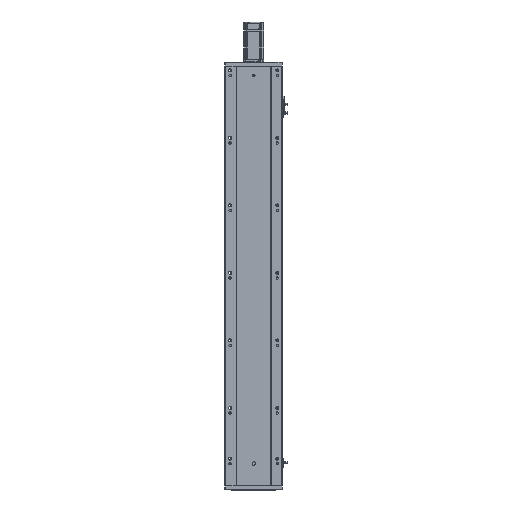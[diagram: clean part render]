
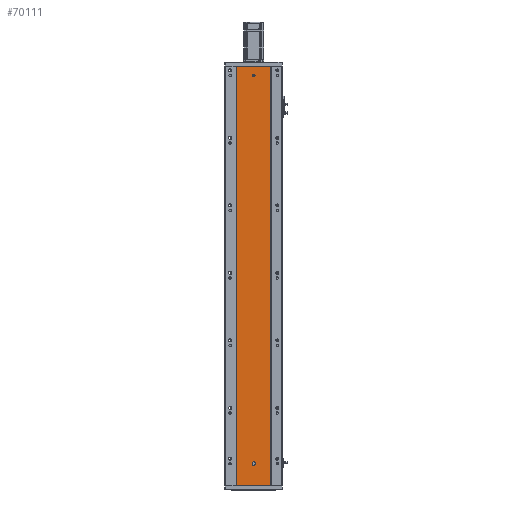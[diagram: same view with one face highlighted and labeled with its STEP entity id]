
A CAD part, front view. The second image highlights one B-rep face of the part: STEP entity #70111.
In plain terms, the highlighted planar face has unit normal (0, -1, 0).
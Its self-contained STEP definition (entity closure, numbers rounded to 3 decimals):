
#28 = CARTESIAN_POINT ( 'NONE',  ( 185.97, 79.476, 829.333 ) ) ;
#274 = CARTESIAN_POINT ( 'NONE',  ( 185.97, 79.476, 414.667 ) ) ;
#404 = CARTESIAN_POINT ( 'NONE',  ( 185.97, 79.476, 0. ) ) ;
#1813 = CARTESIAN_POINT ( 'NONE',  ( 86.97, 79.476, 829.333 ) ) ;
#1826 = AXIS2_PLACEMENT_3D ( 'NONE', #19675, #8997, #19973 ) ;
#3471 = ORIENTED_EDGE ( 'NONE', *, *, #56860, .F. ) ;
#6833 = CIRCLE ( 'NONE', #35227, 4. ) ;
#7901 = CARTESIAN_POINT ( 'NONE',  ( 86.97, 79.476, 0. ) ) ;
#8997 = DIRECTION ( 'NONE',  ( 0., -1., 0. ) ) ;
#9064 = CIRCLE ( 'NONE', #43914, 4. ) ;
#11062 = VECTOR ( 'NONE', #54452, 1000. ) ;
#11970 = ORIENTED_EDGE ( 'NONE', *, *, #67588, .F. ) ;
#13334 = EDGE_CURVE ( 'NONE', #61531, #62593, #55433, .T. ) ;
#14106 = AXIS2_PLACEMENT_3D ( 'NONE', #30485, #68585, #35969 ) ;
#14352 = AXIS2_PLACEMENT_3D ( 'NONE', #29732, #39965, #61698 ) ;
#14894 = ORIENTED_EDGE ( 'NONE', *, *, #32774, .T. ) ;
#15598 = CARTESIAN_POINT ( 'NONE',  ( 140.47, 79.476, 67.5 ) ) ;
#17009 = CARTESIAN_POINT ( 'NONE',  ( 140.47, 79.476, 67.5 ) ) ;
#17067 = DIRECTION ( 'NONE',  ( 0., 0., -1. ) ) ;
#18303 = ORIENTED_EDGE ( 'NONE', *, *, #34341, .F. ) ;
#18334 = VERTEX_POINT ( 'NONE', #17009 ) ;
#19627 = EDGE_LOOP ( 'NONE', ( #33925, #18303, #52201, #28690, #43694 ) ) ;
#19675 = CARTESIAN_POINT ( 'NONE',  ( 136.47, 79.476, 64.5 ) ) ;
#19973 = DIRECTION ( 'NONE',  ( 0., 0., -1. ) ) ;
#20613 = ORIENTED_EDGE ( 'NONE', *, *, #70004, .F. ) ;
#20702 = B_SPLINE_CURVE_WITH_KNOTS ( 'NONE', 3,
 ( #34219, #1813, #67117, #7901 ),
 .UNSPECIFIED., .F., .F.,
 ( 4, 4 ),
 ( 0., 1. ),
 .UNSPECIFIED. ) ;
#20902 = CARTESIAN_POINT ( 'NONE',  ( 185.97, 79.476, 1244. ) ) ;
#22647 = EDGE_CURVE ( 'NONE', #64357, #25067, #47927, .T. ) ;
#23808 = VERTEX_POINT ( 'NONE', #44277 ) ;
#24011 = VERTEX_POINT ( 'NONE', #67725 ) ;
#25067 = VERTEX_POINT ( 'NONE', #54199 ) ;
#26266 = DIRECTION ( 'NONE',  ( 1., 0., 0. ) ) ;
#28047 = CIRCLE ( 'NONE', #35095, 4. ) ;
#28690 = ORIENTED_EDGE ( 'NONE', *, *, #67758, .F. ) ;
#29058 = VECTOR ( 'NONE', #42339, 1000. ) ;
#29588 = DIRECTION ( 'NONE',  ( 0., -1., 0. ) ) ;
#29732 = CARTESIAN_POINT ( 'NONE',  ( 0., 79.476, 1244. ) ) ;
#30037 = CARTESIAN_POINT ( 'NONE',  ( 136.47, 79.476, 1212. ) ) ;
#30485 = CARTESIAN_POINT ( 'NONE',  ( 136.47, 79.476, 64.5 ) ) ;
#32126 = ORIENTED_EDGE ( 'NONE', *, *, #13334, .F. ) ;
#32691 = CARTESIAN_POINT ( 'NONE',  ( 185.97, 79.476, 1244. ) ) ;
#32774 = EDGE_CURVE ( 'NONE', #23808, #62593, #54465, .T. ) ;
#33925 = ORIENTED_EDGE ( 'NONE', *, *, #34539, .F. ) ;
#34219 = CARTESIAN_POINT ( 'NONE',  ( 86.97, 79.476, 1244. ) ) ;
#34304 = CARTESIAN_POINT ( 'NONE',  ( 86.97, 79.476, 1244. ) ) ;
#34341 = EDGE_CURVE ( 'NONE', #41525, #52807, #69570, .T. ) ;
#34539 = EDGE_CURVE ( 'NONE', #52807, #64357, #53465, .T. ) ;
#34976 = DIRECTION ( 'NONE',  ( 0., 0., -1. ) ) ;
#35095 = AXIS2_PLACEMENT_3D ( 'NONE', #66810, #29588, #67484 ) ;
#35227 = AXIS2_PLACEMENT_3D ( 'NONE', #67853, #45196, #34976 ) ;
#35969 = DIRECTION ( 'NONE',  ( 0., 0., -1. ) ) ;
#38150 = CARTESIAN_POINT ( 'NONE',  ( 185.97, 79.476, 0. ) ) ;
#38280 = EDGE_LOOP ( 'NONE', ( #20613, #3471 ) ) ;
#39965 = DIRECTION ( 'NONE',  ( 0., 1., 0. ) ) ;
#39970 = VECTOR ( 'NONE', #26266, 1000. ) ;
#41525 = VERTEX_POINT ( 'NONE', #55430 ) ;
#41914 = VERTEX_POINT ( 'NONE', #34304 ) ;
#42339 = DIRECTION ( 'NONE',  ( 1., 0., 0. ) ) ;
#43349 = VECTOR ( 'NONE', #61523, 1000. ) ;
#43684 = EDGE_LOOP ( 'NONE', ( #14894, #32126, #11970, #49018 ) ) ;
#43694 = ORIENTED_EDGE ( 'NONE', *, *, #22647, .F. ) ;
#43914 = AXIS2_PLACEMENT_3D ( 'NONE', #49785, #66348, #17067 ) ;
#44277 = CARTESIAN_POINT ( 'NONE',  ( 86.97, 79.476, 0. ) ) ;
#45196 = DIRECTION ( 'NONE',  ( 0., -1., 0. ) ) ;
#45366 = EDGE_CURVE ( 'NONE', #18334, #41525, #28047, .T. ) ;
#47559 = LINE ( 'NONE', #58471, #39970 ) ;
#47927 = CIRCLE ( 'NONE', #1826, 4. ) ;
#49018 = ORIENTED_EDGE ( 'NONE', *, *, #53070, .T. ) ;
#49785 = CARTESIAN_POINT ( 'NONE',  ( 136.47, 79.476, 1216. ) ) ;
#51263 = CARTESIAN_POINT ( 'NONE',  ( 136.47, 79.476, 60.5 ) ) ;
#52201 = ORIENTED_EDGE ( 'NONE', *, *, #45366, .F. ) ;
#52768 = CARTESIAN_POINT ( 'NONE',  ( 0., 79.476, 0. ) ) ;
#52807 = VERTEX_POINT ( 'NONE', #54100 ) ;
#53070 = EDGE_CURVE ( 'NONE', #41914, #23808, #20702, .T. ) ;
#53465 = CIRCLE ( 'NONE', #14106, 4. ) ;
#54100 = CARTESIAN_POINT ( 'NONE',  ( 132.47, 79.476, 64.5 ) ) ;
#54199 = CARTESIAN_POINT ( 'NONE',  ( 140.47, 79.476, 64.5 ) ) ;
#54452 = DIRECTION ( 'NONE',  ( 0., 0., 1. ) ) ;
#54465 = LINE ( 'NONE', #52768, #29058 ) ;
#55430 = CARTESIAN_POINT ( 'NONE',  ( 132.47, 79.476, 67.5 ) ) ;
#55433 = B_SPLINE_CURVE_WITH_KNOTS ( 'NONE', 3,
 ( #32691, #28, #274, #38150 ),
 .UNSPECIFIED., .F., .F.,
 ( 4, 4 ),
 ( 0., 1. ),
 .UNSPECIFIED. ) ;
#56737 = FACE_OUTER_BOUND ( 'NONE', #43684, .T. ) ;
#56860 = EDGE_CURVE ( 'NONE', #24011, #57190, #9064, .T. ) ;
#57190 = VERTEX_POINT ( 'NONE', #30037 ) ;
#58471 = CARTESIAN_POINT ( 'NONE',  ( 0., 79.476, 1244. ) ) ;
#60143 = FACE_BOUND ( 'NONE', #19627, .T. ) ;
#61020 = FACE_BOUND ( 'NONE', #38280, .T. ) ;
#61523 = DIRECTION ( 'NONE',  ( 0., 0., -1. ) ) ;
#61531 = VERTEX_POINT ( 'NONE', #20902 ) ;
#61698 = DIRECTION ( 'NONE',  ( 0., 0., 1. ) ) ;
#62166 = PLANE ( 'NONE',  #14352 ) ;
#62593 = VERTEX_POINT ( 'NONE', #404 ) ;
#64357 = VERTEX_POINT ( 'NONE', #51263 ) ;
#66196 = LINE ( 'NONE', #15598, #11062 ) ;
#66348 = DIRECTION ( 'NONE',  ( 0., -1., 0. ) ) ;
#66810 = CARTESIAN_POINT ( 'NONE',  ( 136.47, 79.476, 67.5 ) ) ;
#67117 = CARTESIAN_POINT ( 'NONE',  ( 86.97, 79.476, 414.667 ) ) ;
#67463 = CARTESIAN_POINT ( 'NONE',  ( 132.47, 79.476, 67.5 ) ) ;
#67484 = DIRECTION ( 'NONE',  ( 0., 0., -1. ) ) ;
#67588 = EDGE_CURVE ( 'NONE', #41914, #61531, #47559, .T. ) ;
#67725 = CARTESIAN_POINT ( 'NONE',  ( 136.47, 79.476, 1220. ) ) ;
#67758 = EDGE_CURVE ( 'NONE', #25067, #18334, #66196, .T. ) ;
#67853 = CARTESIAN_POINT ( 'NONE',  ( 136.47, 79.476, 1216. ) ) ;
#68585 = DIRECTION ( 'NONE',  ( 0., -1., 0. ) ) ;
#69570 = LINE ( 'NONE', #67463, #43349 ) ;
#70004 = EDGE_CURVE ( 'NONE', #57190, #24011, #6833, .T. ) ;
#70111 = ADVANCED_FACE ( 'NONE', ( #60143, #56737, #61020 ), #62166, .F. ) ;
